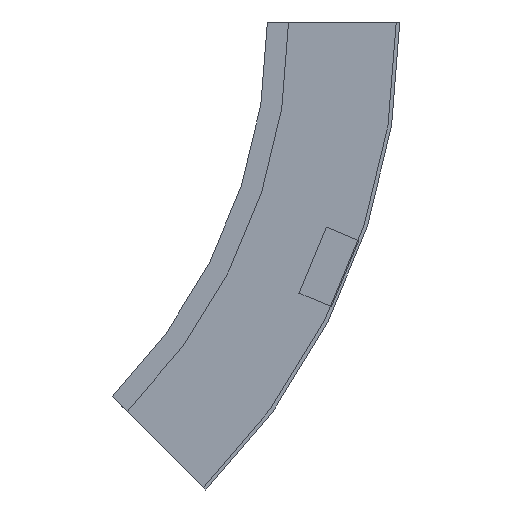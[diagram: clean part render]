
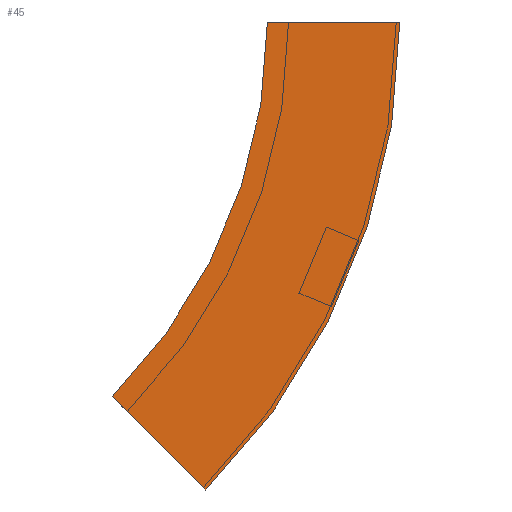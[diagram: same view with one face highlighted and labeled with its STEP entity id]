
A CAD part, left-side view. The second image highlights one B-rep face of the part: STEP entity #45.
In plain terms, the highlighted planar face has unit normal (-1, 0, 0) as drawn and (1, 0, 0) by its records, which use the part's own axes.
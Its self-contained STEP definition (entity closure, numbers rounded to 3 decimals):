
#22 = FACE_OUTER_BOUND ( 'NONE', #337, .T. ) ;
#41 = EDGE_CURVE ( 'NONE', #542, #239, #150, .T. ) ;
#45 = ADVANCED_FACE ( 'NONE', ( #22 ), #289, .F. ) ;
#65 = VERTEX_POINT ( 'NONE', #206 ) ;
#72 = DIRECTION ( 'NONE',  ( -1., 0., 0. ) ) ;
#81 = DIRECTION ( 'NONE',  ( 0., 0., 1. ) ) ;
#94 = AXIS2_PLACEMENT_3D ( 'NONE', #166, #469, #133 ) ;
#133 = DIRECTION ( 'NONE',  ( 0., -1., 0. ) ) ;
#145 = ORIENTED_EDGE ( 'NONE', *, *, #393, .F. ) ;
#150 = CIRCLE ( 'NONE', #395, 375. ) ;
#153 = VECTOR ( 'NONE', #512, 1000. ) ;
#160 = ORIENTED_EDGE ( 'NONE', *, *, #376, .F. ) ;
#166 = CARTESIAN_POINT ( 'NONE',  ( 0., 300., 0. ) ) ;
#183 = AXIS2_PLACEMENT_3D ( 'NONE', #456, #72, #81 ) ;
#186 = ORIENTED_EDGE ( 'NONE', *, *, #41, .T. ) ;
#201 = CARTESIAN_POINT ( 'NONE',  ( 0., 300., 0. ) ) ;
#203 = VERTEX_POINT ( 'NONE', #362 ) ;
#206 = CARTESIAN_POINT ( 'NONE',  ( 0., 0., 0. ) ) ;
#239 = VERTEX_POINT ( 'NONE', #467 ) ;
#263 = LINE ( 'NONE', #438, #383 ) ;
#287 = CARTESIAN_POINT ( 'NONE',  ( 0., -75., 0. ) ) ;
#289 = PLANE ( 'NONE',  #183 ) ;
#300 = EDGE_CURVE ( 'NONE', #239, #203, #391, .T. ) ;
#337 = EDGE_LOOP ( 'NONE', ( #145, #160, #186, #523 ) ) ;
#362 = CARTESIAN_POINT ( 'NONE',  ( 0., 87.868, -212.132 ) ) ;
#376 = EDGE_CURVE ( 'NONE', #542, #65, #263, .T. ) ;
#379 = DIRECTION ( 'NONE',  ( 1., 0., 0. ) ) ;
#383 = VECTOR ( 'NONE', #396, 1000. ) ;
#391 = LINE ( 'NONE', #437, #153 ) ;
#393 = EDGE_CURVE ( 'NONE', #65, #203, #461, .T. ) ;
#395 = AXIS2_PLACEMENT_3D ( 'NONE', #201, #379, #540 ) ;
#396 = DIRECTION ( 'NONE',  ( 0., 1., 0. ) ) ;
#437 = CARTESIAN_POINT ( 'NONE',  ( 0., 34.835, -265.165 ) ) ;
#438 = CARTESIAN_POINT ( 'NONE',  ( 0., -75., 0. ) ) ;
#456 = CARTESIAN_POINT ( 'NONE',  ( 0., -75., 0. ) ) ;
#461 = CIRCLE ( 'NONE', #94, 300. ) ;
#467 = CARTESIAN_POINT ( 'NONE',  ( 0., 34.835, -265.165 ) ) ;
#469 = DIRECTION ( 'NONE',  ( 1., 0., 0. ) ) ;
#512 = DIRECTION ( 'NONE',  ( 0., 0.707, 0.707 ) ) ;
#523 = ORIENTED_EDGE ( 'NONE', *, *, #300, .T. ) ;
#540 = DIRECTION ( 'NONE',  ( 0., -1., 0. ) ) ;
#542 = VERTEX_POINT ( 'NONE', #287 ) ;
